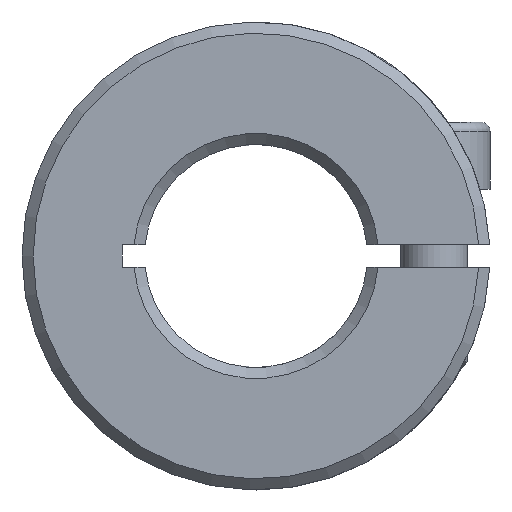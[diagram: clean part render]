
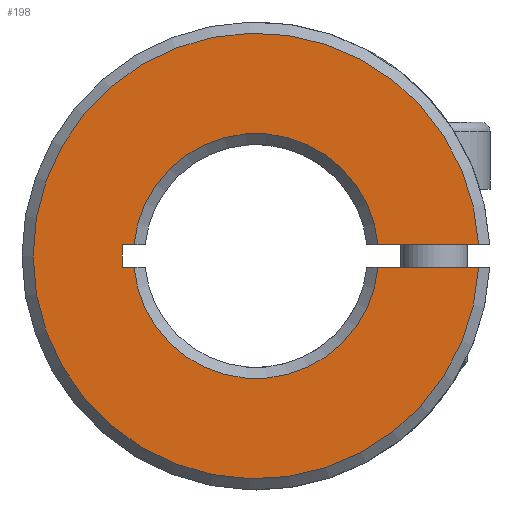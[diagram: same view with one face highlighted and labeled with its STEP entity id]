
A CAD part, front view. The second image highlights one B-rep face of the part: STEP entity #198.
In plain terms, the highlighted planar face has unit normal (0, -1, 0).
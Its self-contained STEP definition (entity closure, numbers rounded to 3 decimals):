
#198 = ADVANCED_FACE( '', ( #400 ), #401, .F. );
#400 = FACE_OUTER_BOUND( '', #648, .T. );
#401 = PLANE( '', #649 );
#648 = EDGE_LOOP( '', ( #961, #962, #963, #964, #965, #966, #967, #968 ) );
#649 = AXIS2_PLACEMENT_3D( '', #969, #970, #971 );
#961 = ORIENTED_EDGE( '', *, *, #1414, .F. );
#962 = ORIENTED_EDGE( '', *, *, #1415, .T. );
#963 = ORIENTED_EDGE( '', *, *, #1356, .F. );
#964 = ORIENTED_EDGE( '', *, *, #1416, .F. );
#965 = ORIENTED_EDGE( '', *, *, #1417, .T. );
#966 = ORIENTED_EDGE( '', *, *, #1418, .T. );
#967 = ORIENTED_EDGE( '', *, *, #1419, .T. );
#968 = ORIENTED_EDGE( '', *, *, #1420, .T. );
#969 = CARTESIAN_POINT( '', ( 0., -65., 0. ) );
#970 = DIRECTION( '', ( 0., 1., 0. ) );
#971 = DIRECTION( '', ( 0., 0., 1. ) );
#1356 = EDGE_CURVE( '', #1564, #1566, #1567, .T. );
#1414 = EDGE_CURVE( '', #1660, #1661, #1662, .T. );
#1415 = EDGE_CURVE( '', #1660, #1566, #1663, .T. );
#1416 = EDGE_CURVE( '', #1664, #1564, #1665, .T. );
#1417 = EDGE_CURVE( '', #1664, #1666, #1667, .T. );
#1418 = EDGE_CURVE( '', #1666, #1668, #1669, .T. );
#1419 = EDGE_CURVE( '', #1668, #1670, #1671, .T. );
#1420 = EDGE_CURVE( '', #1670, #1661, #1672, .F. );
#1564 = VERTEX_POINT( '', #1864 );
#1566 = VERTEX_POINT( '', #1867 );
#1567 = LINE( '', #1868, #1869 );
#1660 = VERTEX_POINT( '', #2197 );
#1661 = VERTEX_POINT( '', #2198 );
#1662 = LINE( '', #2199, #2200 );
#1663 = CIRCLE( '', #2201, 11. );
#1664 = VERTEX_POINT( '', #2202 );
#1665 = LINE( '', #2203, #2204 );
#1666 = VERTEX_POINT( '', #2205 );
#1667 = LINE( '', #2206, #2207 );
#1668 = VERTEX_POINT( '', #2208 );
#1669 = CIRCLE( '', #2209, 11. );
#1670 = VERTEX_POINT( '', #2210 );
#1671 = LINE( '', #2211, #2212 );
#1672 = CIRCLE( '', #2213, 20. );
#1864 = CARTESIAN_POINT( '', ( -12., -65., -1. ) );
#1867 = CARTESIAN_POINT( '', ( -10.954, -65., -1. ) );
#1868 = CARTESIAN_POINT( '', ( 0., -65., -1. ) );
#1869 = VECTOR( '', #2739, 1000. );
#2197 = CARTESIAN_POINT( '', ( 10.954, -65., -1. ) );
#2198 = CARTESIAN_POINT( '', ( 19.975, -65., -1. ) );
#2199 = CARTESIAN_POINT( '', ( 0., -65., -1. ) );
#2200 = VECTOR( '', #2807, 1000. );
#2201 = AXIS2_PLACEMENT_3D( '', #2808, #2809, #2810 );
#2202 = CARTESIAN_POINT( '', ( -12., -65., 1. ) );
#2203 = CARTESIAN_POINT( '', ( -12., -65., 0. ) );
#2204 = VECTOR( '', #2811, 1000. );
#2205 = CARTESIAN_POINT( '', ( -10.954, -65., 1. ) );
#2206 = CARTESIAN_POINT( '', ( 0., -65., 1. ) );
#2207 = VECTOR( '', #2812, 1000. );
#2208 = CARTESIAN_POINT( '', ( 10.954, -65., 1. ) );
#2209 = AXIS2_PLACEMENT_3D( '', #2813, #2814, #2815 );
#2210 = CARTESIAN_POINT( '', ( 19.975, -65., 1. ) );
#2211 = CARTESIAN_POINT( '', ( 0., -65., 1. ) );
#2212 = VECTOR( '', #2816, 1000. );
#2213 = AXIS2_PLACEMENT_3D( '', #2817, #2818, #2819 );
#2739 = DIRECTION( '', ( 1., 0., 0. ) );
#2807 = DIRECTION( '', ( 1., 0., 0. ) );
#2808 = CARTESIAN_POINT( '', ( 0., -65., 0. ) );
#2809 = DIRECTION( '', ( 0., 1., 0. ) );
#2810 = DIRECTION( '', ( 0., 0., 1. ) );
#2811 = DIRECTION( '', ( 0., 0., -1. ) );
#2812 = DIRECTION( '', ( 1., 0., 0. ) );
#2813 = CARTESIAN_POINT( '', ( 0., -65., 0. ) );
#2814 = DIRECTION( '', ( 0., 1., 0. ) );
#2815 = DIRECTION( '', ( 0., 0., 1. ) );
#2816 = DIRECTION( '', ( 1., 0., 0. ) );
#2817 = CARTESIAN_POINT( '', ( 0., -65., 0. ) );
#2818 = DIRECTION( '', ( 0., 1., 0. ) );
#2819 = DIRECTION( '', ( 0., 0., 1. ) );
